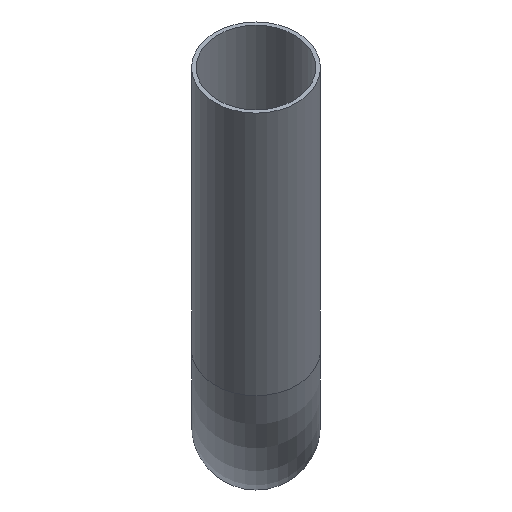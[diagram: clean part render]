
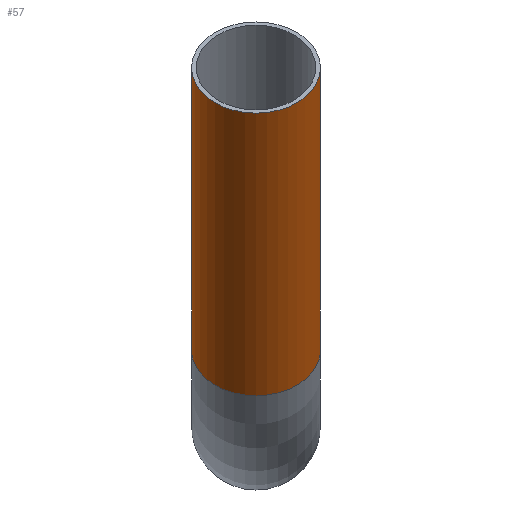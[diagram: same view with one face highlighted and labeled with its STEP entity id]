
A CAD part, front view. The second image highlights one B-rep face of the part: STEP entity #57.
In plain terms, the highlighted cylindrical face has radius 14 mm (diameter 28 mm), a full revolution.
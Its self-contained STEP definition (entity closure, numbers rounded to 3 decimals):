
#57=ADVANCED_FACE('',(#97,#99),#101,.T.);
#97=FACE_OUTER_BOUND('',#98,.T.);
#98=EDGE_LOOP('',(#141));
#99=FACE_OUTER_BOUND('',#100,.T.);
#100=EDGE_LOOP('',(#142));
#101=CYLINDRICAL_SURFACE('',#102,14.);
#102=AXIS2_PLACEMENT_3D('',#103,#104,#105);
#103=CARTESIAN_POINT('',(0.,-16.402,16.402));
#104=DIRECTION('',(0.,-0.707,0.707));
#105=DIRECTION('',(-1.,0.,0.));
#141=ORIENTED_EDGE('',*,*,#153,.T.);
#142=ORIENTED_EDGE('',*,*,#155,.F.);
#153=EDGE_CURVE('',#165,#165,#166,.T.);
#155=EDGE_CURVE('',#169,#169,#170,.T.);
#165=VERTEX_POINT('',#193);
#166=CIRCLE('',#194,14.);
#169=VERTEX_POINT('',#203);
#170=CIRCLE('',#204,14.);
#193=CARTESIAN_POINT('',(-14.,-16.402,16.402));
#194=AXIS2_PLACEMENT_3D('',#195,#196,#197);
#195=CARTESIAN_POINT('',(0.,-16.402,16.402));
#196=DIRECTION('',(0.,-0.707,0.707));
#197=DIRECTION('',(-1.,0.,0.));
#203=CARTESIAN_POINT('',(-14.,-77.782,77.782));
#204=AXIS2_PLACEMENT_3D('',#205,#206,#207);
#205=CARTESIAN_POINT('',(0.,-77.782,77.782));
#206=DIRECTION('',(0.,-0.707,0.707));
#207=DIRECTION('',(-1.,0.,0.));
